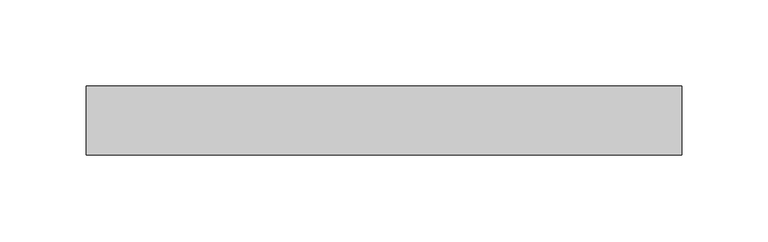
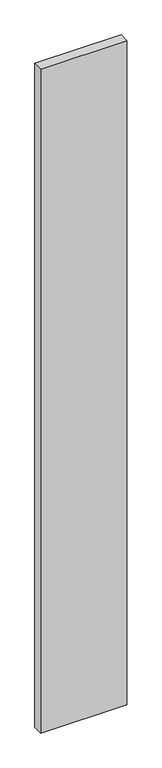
"""IFC4 building model written with IfcOpenShell, lengths in millimetres: plate geometry, Vitré."""

from ifc_helpers import new_model, si_unit, origin, origin_with_axes, place, context, project, spatial, polyline, outline, extrude, source, transform, mapped, element, save


def plate_9c79de4f(model_context):
    return source(origin(), model_context, "Body", "SweptSolid", [
        extrude(outline(polyline([(-172.6765476, -20.0), (-172.6765476, 20.0), (172.6765476, 20.0), (172.6765476, -20.0), (-172.6765476, -20.0)])), origin_with_axes(), (0.0, 0.0, 1.0), 2814.4970552),
    ])


if __name__ == "__main__":
    model = new_model("IFC4")
    model_context = context("Model", 3, world=origin())
    ifc_project = project(units=[si_unit("LENGTHUNIT", "METRE", prefix="MILLI")], contexts=[model_context])
    site = spatial("IfcSite", under=ifc_project)
    building = spatial("IfcBuilding", under=site)
    placement = place(None, origin())
    plate_shape = plate_9c79de4f(model_context)
    element("IfcPlate", 1, ObjectType="Vitré", at=placement, inside=building, context=model_context, shape_type="MappedRepresentation", body=[
        mapped(plate_shape, transform((0.0, 0.0, 0.0), x_axis=(1.0, 0.0, 0.0), y_axis=(0.0, 1.0, 0.0), z_axis=(0.0, 0.0, 1.0))),
    ])
    save(model, "model.ifc")
